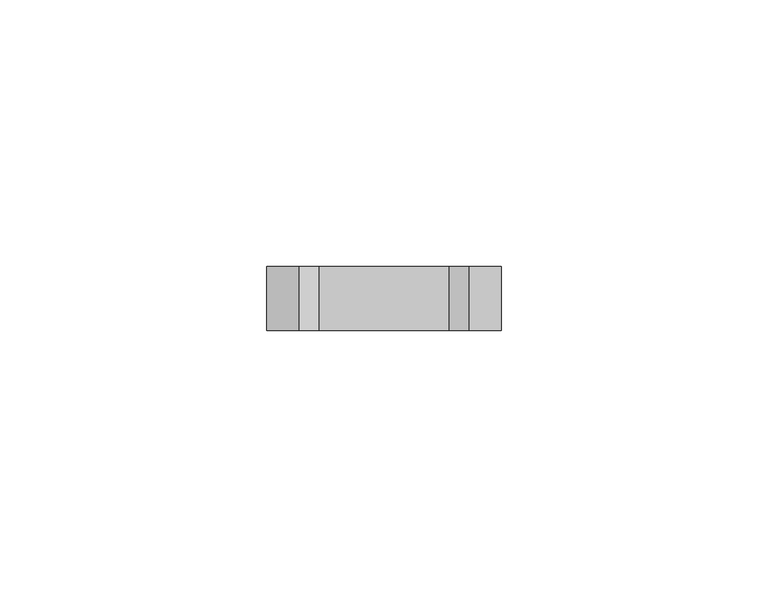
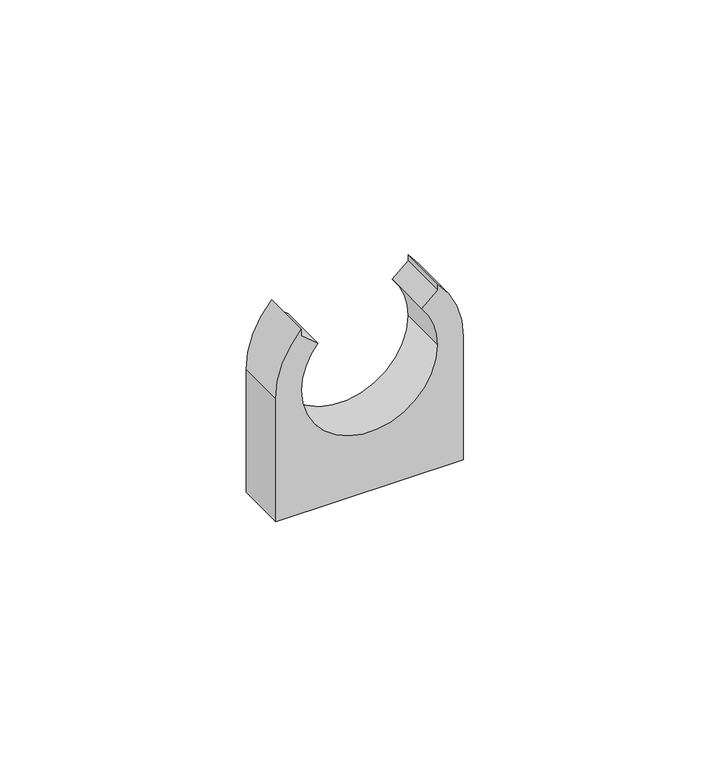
"""IFC4 building model written with IfcOpenShell, lengths in millimetres: cable carrier fitting geometry."""

from ifc_helpers import new_model, si_unit, point, frame, frame_2d, origin, place, context, project, spatial, polyline, circle_curve, trimmed, segment, composite_curve, outline, extrude, source, transform, mapped, element, save


def cable_carrier_fitting_ca461cb8(model_context):
    return source(origin(), model_context, "Body", "SweptSolid", [
        extrude(outline(composite_curve([segment(polyline([(0.0, -22.0), (0.0, 22.0), (30.5, 22.0)]), True, "CONTINUOUS"), segment(trimmed(circle_curve(frame_2d((30.5, 0.0)), 22.0), [point((30.5, 22.0))], [point((45.5996689, 16.0))], False, "CARTESIAN"), True, "CONTINUOUS"), segment(polyline([(45.5996689, 16.0), (44.0498344, 16.0), (40.8401327, 12.2098999)]), True, "CONTINUOUS"), segment(trimmed(circle_curve(frame_2d((30.5, 0.0)), 16.0), [point((40.8401327, 12.2098999))], [point((30.5, 16.0))], True, "CARTESIAN"), True, "CONTINUOUS"), segment(trimmed(circle_curve(frame_2d((30.5, 0.0)), 16.0), [point((30.5, 16.0))], [point((30.5, -16.0))], True, "CARTESIAN"), True, "CONTINUOUS"), segment(trimmed(circle_curve(frame_2d((30.5, 0.0)), 16.0), [point((30.5, -16.0))], [point((40.8401327, -12.2098999))], True, "CARTESIAN"), True, "CONTINUOUS"), segment(polyline([(40.8401327, -12.2098999), (44.0498344, -16.0), (45.5996689, -16.0)]), True, "CONTINUOUS"), segment(trimmed(circle_curve(frame_2d((30.5, 0.0)), 22.0), [point((45.5996689, -16.0))], [point((30.5, -22.0))], False, "CARTESIAN"), True, "CONTINUOUS"), segment(polyline([(30.5, -22.0), (0.0, -22.0)]), True, "CONTINUOUS")], self_intersect=False)), frame((0.0, -6.0, 0.0), z_axis=(0.0, 1.0, 0.0), x_axis=(0.0, 0.0, 1.0)), (0.0, 0.0, 1.0), 12.0),
    ])


if __name__ == "__main__":
    model = new_model("IFC4")
    model_context = context("Model", 3, world=origin())
    ifc_project = project(units=[si_unit("LENGTHUNIT", "METRE", prefix="MILLI")], contexts=[model_context])
    site = spatial("IfcSite", under=ifc_project)
    building = spatial("IfcBuilding", under=site)
    placement = place(None, origin())
    cable_carrier_fitting_shape = cable_carrier_fitting_ca461cb8(model_context)
    element("IfcCableCarrierFitting", 1, at=placement, inside=building, context=model_context, shape_type="MappedRepresentation", body=[
        mapped(cable_carrier_fitting_shape, transform((0.0, 0.0, 0.0), x_axis=(1.0, 0.0, 0.0), y_axis=(0.0, 1.0, 0.0), z_axis=(0.0, 0.0, 1.0))),
    ])
    save(model, "model.ifc")
